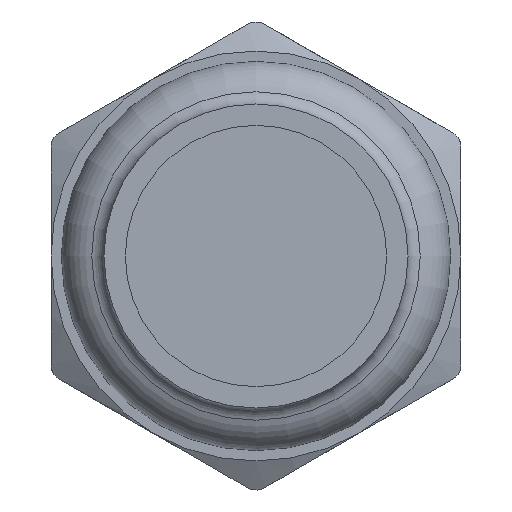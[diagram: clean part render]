
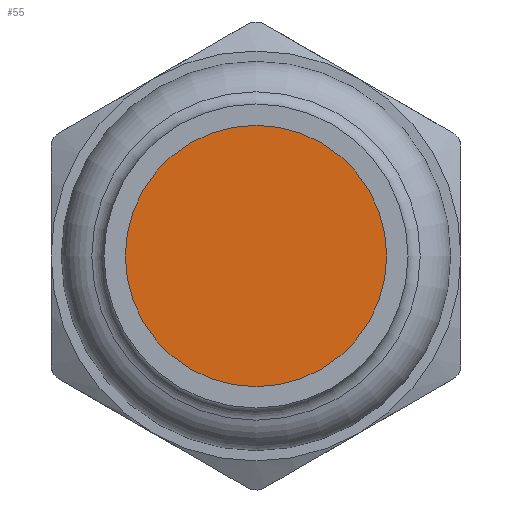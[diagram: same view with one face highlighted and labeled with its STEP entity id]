
A CAD part, front view. The second image highlights one B-rep face of the part: STEP entity #55.
In plain terms, the highlighted planar face has unit normal (0, -1, 0).
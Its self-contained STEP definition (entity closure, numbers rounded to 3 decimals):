
#55=ADVANCED_FACE('',(#108),#110,.T.);
#108=FACE_BOUND('',#109,.T.);
#109=EDGE_LOOP('',(#396));
#110=PLANE('',#111);
#111=AXIS2_PLACEMENT_3D('',#112,#113,#114);
#112=CARTESIAN_POINT('',(0.,-21.354,0.));
#113=DIRECTION('',(0.,-1.,0.));
#114=DIRECTION('',(0.,0.,-1.));
#396=ORIENTED_EDGE('',*,*,#540,.T.);
#540=EDGE_CURVE('',#614,#614,#615,.F.);
#614=VERTEX_POINT('',#740);
#615=CIRCLE('',#741,7.65);
#740=CARTESIAN_POINT('',(0.,-21.354,7.65));
#741=AXIS2_PLACEMENT_3D('',#742,#743,#744);
#742=CARTESIAN_POINT('',(0.,-21.354,0.));
#743=DIRECTION('',(0.,1.,0.));
#744=DIRECTION('',(0.,0.,1.));
